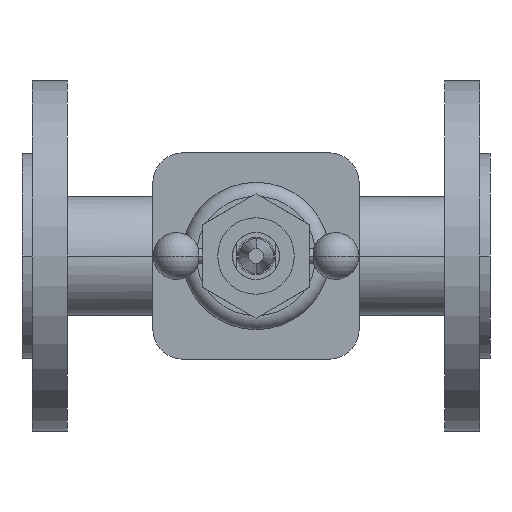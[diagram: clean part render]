
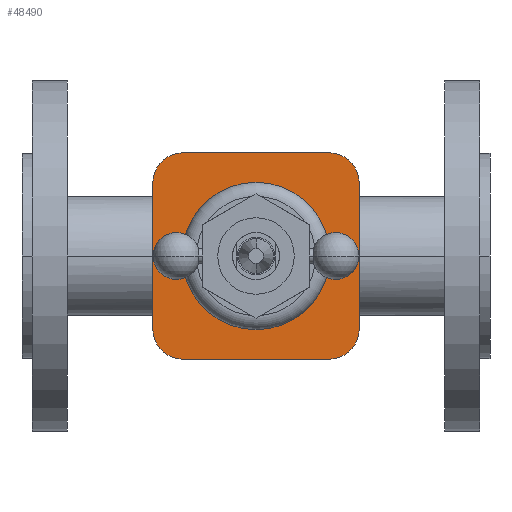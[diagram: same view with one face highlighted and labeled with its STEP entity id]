
A CAD part, front view. The second image highlights one B-rep face of the part: STEP entity #48490.
In plain terms, the highlighted planar face has unit normal (0, -1, 0).
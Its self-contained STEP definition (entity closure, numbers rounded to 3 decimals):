
#14190=CARTESIAN_POINT('',(131.5,-80.5,0.));
#14200=VERTEX_POINT('',#14190);
#14290=CARTESIAN_POINT('',(68.5,-80.5,0.));
#14300=VERTEX_POINT('',#14290);
#14330=CARTESIAN_POINT('',(100.,-80.5,0.));
#14340=DIRECTION('',(0.,-1.,0.));
#14350=DIRECTION('',(-1.,0.,0.));
#14360=AXIS2_PLACEMENT_3D('',#14330,#14340,#14350);
#14370=CIRCLE('',#14360,31.5);
#14380=EDGE_CURVE('',#14200,#14300,#14370,.T.);
#47690=CARTESIAN_POINT('',(55.25,-80.5,0.));
#47700=DIRECTION('',(0.,-1.,0.));
#47710=DIRECTION('',(-1.,0.,0.));
#47720=AXIS2_PLACEMENT_3D('',#47690,#47700,#47710);
#47730=PLANE('',#47720);
#47740=CARTESIAN_POINT('',(68.887,-80.5,31.113));
#47750=DIRECTION('',(0.,-1.,0.));
#47760=DIRECTION('',(-1.,0.,0.));
#47770=AXIS2_PLACEMENT_3D('',#47740,#47750,#47760);
#47780=CIRCLE('',#47770,13.);
#47790=CARTESIAN_POINT('',(68.887,-80.5,44.113));
#47800=VERTEX_POINT('',#47790);
#47810=CARTESIAN_POINT('',(55.887,-80.5,31.113));
#47820=VERTEX_POINT('',#47810);
#47830=EDGE_CURVE('',#47800,#47820,#47780,.T.);
#47840=ORIENTED_EDGE('',*,*,#47830,.T.);
#47850=CARTESIAN_POINT('',(62.069,-80.5,44.113));
#47860=DIRECTION('',(-1.,0.,0.));
#47870=VECTOR('',#47860,1.);
#47880=LINE('',#47850,#47870);
#47890=CARTESIAN_POINT('',(131.113,-80.5,44.113));
#47900=VERTEX_POINT('',#47890);
#47910=EDGE_CURVE('',#47900,#47800,#47880,.T.);
#47920=ORIENTED_EDGE('',*,*,#47910,.T.);
#47930=CARTESIAN_POINT('',(131.113,-80.5,31.113));
#47940=DIRECTION('',(0.,-1.,0.));
#47950=DIRECTION('',(0.,0.,1.));
#47960=AXIS2_PLACEMENT_3D('',#47930,#47940,#47950);
#47970=CIRCLE('',#47960,13.);
#47980=CARTESIAN_POINT('',(144.113,-80.5,31.113));
#47990=VERTEX_POINT('',#47980);
#48000=EDGE_CURVE('',#47990,#47900,#47970,.T.);
#48010=ORIENTED_EDGE('',*,*,#48000,.T.);
#48020=CARTESIAN_POINT('',(144.113,-80.5,15.556));
#48030=DIRECTION('',(0.,0.,1.));
#48040=VECTOR('',#48030,1.);
#48050=LINE('',#48020,#48040);
#48060=CARTESIAN_POINT('',(144.113,-80.5,-31.113));
#48070=VERTEX_POINT('',#48060);
#48080=EDGE_CURVE('',#48070,#47990,#48050,.T.);
#48090=ORIENTED_EDGE('',*,*,#48080,.T.);
#48100=CARTESIAN_POINT('',(131.113,-80.5,-31.113));
#48110=DIRECTION('',(0.,-1.,0.));
#48120=DIRECTION('',(1.,0.,0.));
#48130=AXIS2_PLACEMENT_3D('',#48100,#48110,#48120);
#48140=CIRCLE('',#48130,13.);
#48150=CARTESIAN_POINT('',(131.113,-80.5,-44.113));
#48160=VERTEX_POINT('',#48150);
#48170=EDGE_CURVE('',#48160,#48070,#48140,.T.);
#48180=ORIENTED_EDGE('',*,*,#48170,.T.);
#48190=CARTESIAN_POINT('',(93.181,-80.5,-44.113));
#48200=DIRECTION('',(1.,0.,0.));
#48210=VECTOR('',#48200,1.);
#48220=LINE('',#48190,#48210);
#48230=CARTESIAN_POINT('',(68.887,-80.5,-44.113));
#48240=VERTEX_POINT('',#48230);
#48250=EDGE_CURVE('',#48240,#48160,#48220,.T.);
#48260=ORIENTED_EDGE('',*,*,#48250,.T.);
#48270=CARTESIAN_POINT('',(68.887,-80.5,-31.113));
#48280=DIRECTION('',(0.,-1.,0.));
#48290=DIRECTION('',(0.,0.,-1.));
#48300=AXIS2_PLACEMENT_3D('',#48270,#48280,#48290);
#48310=CIRCLE('',#48300,13.);
#48320=CARTESIAN_POINT('',(55.887,-80.5,-31.113));
#48330=VERTEX_POINT('',#48320);
#48340=EDGE_CURVE('',#48330,#48240,#48310,.T.);
#48350=ORIENTED_EDGE('',*,*,#48340,.T.);
#48360=CARTESIAN_POINT('',(55.887,-80.5,-15.556));
#48370=DIRECTION('',(0.,0.,-1.));
#48380=VECTOR('',#48370,1.);
#48390=LINE('',#48360,#48380);
#48400=EDGE_CURVE('',#47820,#48330,#48390,.T.);
#48410=ORIENTED_EDGE('',*,*,#48400,.T.);
#48420=EDGE_LOOP('',(#48410,#48350,#48260,#48180,#48090,#48010,#47920,
#47840));
#48430=FACE_OUTER_BOUND('',#48420,.T.);
#48440=EDGE_CURVE('',#14300,#14200,#14370,.T.);
#48450=ORIENTED_EDGE('',*,*,#48440,.F.);
#48460=ORIENTED_EDGE('',*,*,#14380,.F.);
#48470=EDGE_LOOP('',(#48460,#48450));
#48480=FACE_BOUND('',#48470,.T.);
#48490=ADVANCED_FACE('',(#48430,#48480),#47730,.T.);
